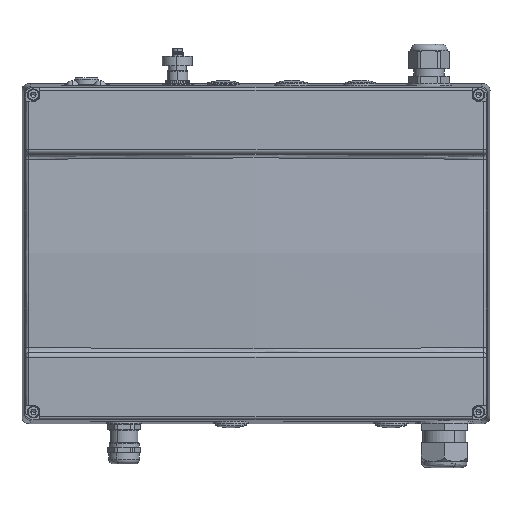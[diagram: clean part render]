
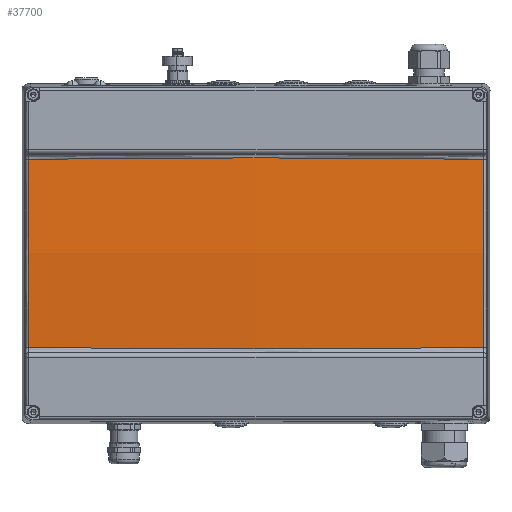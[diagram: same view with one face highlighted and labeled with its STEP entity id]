
A CAD part, top view. The second image highlights one B-rep face of the part: STEP entity #37700.
In plain terms, the highlighted toroidal (fillet/blend) face has major radius 3002.64 mm and minor radius 800 mm.
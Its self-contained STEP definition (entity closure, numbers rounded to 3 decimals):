
#37657=AXIS2_PLACEMENT_3D('Torus Axis2P3D',#37654,#37655,#37656) ;
#37533=CARTESIAN_POINT('Vertex',(-4.239,61.776,90.16)) ;
#37543=CARTESIAN_POINT('Vertex',(-302.761,61.776,90.16)) ;
#37547=CARTESIAN_POINT('Control Point',(-302.761,61.776,90.16)) ;
#37548=CARTESIAN_POINT('Control Point',(-301.742,61.779,90.2)) ;
#37549=CARTESIAN_POINT('Control Point',(-300.724,61.781,90.239)) ;
#37550=CARTESIAN_POINT('Control Point',(-299.706,61.784,90.279)) ;
#37551=CARTESIAN_POINT('Control Point',(-291.721,61.807,90.583)) ;
#37552=CARTESIAN_POINT('Control Point',(-283.736,61.847,90.864)) ;
#37553=CARTESIAN_POINT('Control Point',(-276.769,61.892,91.093)) ;
#37554=CARTESIAN_POINT('Control Point',(-261.351,62.007,91.564)) ;
#37555=CARTESIAN_POINT('Control Point',(-245.932,62.143,91.954)) ;
#37556=CARTESIAN_POINT('Control Point',(-237.481,62.219,92.144)) ;
#37557=CARTESIAN_POINT('Control Point',(-220.579,62.368,92.478)) ;
#37558=CARTESIAN_POINT('Control Point',(-203.676,62.496,92.719)) ;
#37559=CARTESIAN_POINT('Control Point',(-195.225,62.552,92.817)) ;
#37560=CARTESIAN_POINT('Control Point',(-178.323,62.64,92.968)) ;
#37561=CARTESIAN_POINT('Control Point',(-161.421,62.679,93.028)) ;
#37562=CARTESIAN_POINT('Control Point',(-152.97,62.684,93.036)) ;
#37563=CARTESIAN_POINT('Control Point',(-127.615,62.655,92.992)) ;
#37564=CARTESIAN_POINT('Control Point',(-102.26,62.508,92.746)) ;
#37565=CARTESIAN_POINT('Control Point',(-85.367,62.365,92.492)) ;
#37566=CARTESIAN_POINT('Control Point',(-60.014,62.125,91.972)) ;
#37567=CARTESIAN_POINT('Control Point',(-34.664,61.922,91.237)) ;
#37568=CARTESIAN_POINT('Control Point',(-26.214,61.863,90.968)) ;
#37569=CARTESIAN_POINT('Control Point',(-16.749,61.811,90.639)) ;
#37570=CARTESIAN_POINT('Control Point',(-7.285,61.784,90.278)) ;
#37571=CARTESIAN_POINT('Control Point',(-6.269,61.781,90.239)) ;
#37572=CARTESIAN_POINT('Control Point',(-5.254,61.779,90.2)) ;
#37573=CARTESIAN_POINT('Control Point',(-4.239,61.776,90.16)) ;
#37654=CARTESIAN_POINT('Axis2P3D Location',(-153.5,0.,-3707.164)) ;
#37660=CARTESIAN_POINT('Control Point',(-302.761,-61.776,90.16)) ;
#37661=CARTESIAN_POINT('Control Point',(-302.678,-30.95,92.553)) ;
#37662=CARTESIAN_POINT('Control Point',(-302.65,0.,93.354)) ;
#37663=CARTESIAN_POINT('Control Point',(-302.678,30.95,92.553)) ;
#37664=CARTESIAN_POINT('Control Point',(-302.761,61.776,90.16)) ;
#37665=CARTESIAN_POINT('Vertex',(-302.761,-61.776,90.16)) ;
#37669=CARTESIAN_POINT('Control Point',(-302.761,-61.776,90.16)) ;
#37670=CARTESIAN_POINT('Control Point',(-286.327,-61.81,90.803)) ;
#37671=CARTESIAN_POINT('Control Point',(-269.891,-61.925,91.352)) ;
#37672=CARTESIAN_POINT('Control Point',(-253.454,-62.074,91.808)) ;
#37673=CARTESIAN_POINT('Control Point',(-220.117,-62.387,92.552)) ;
#37674=CARTESIAN_POINT('Control Point',(-186.775,-62.619,92.937)) ;
#37675=CARTESIAN_POINT('Control Point',(-169.873,-62.689,93.042)) ;
#37676=CARTESIAN_POINT('Control Point',(-136.066,-62.705,93.074)) ;
#37677=CARTESIAN_POINT('Control Point',(-102.26,-62.508,92.746)) ;
#37678=CARTESIAN_POINT('Control Point',(-85.367,-62.365,92.492)) ;
#37679=CARTESIAN_POINT('Control Point',(-58.999,-62.116,91.951)) ;
#37680=CARTESIAN_POINT('Control Point',(-32.633,-61.906,91.178)) ;
#37681=CARTESIAN_POINT('Control Point',(-23.168,-61.842,90.87)) ;
#37682=CARTESIAN_POINT('Control Point',(-13.703,-61.796,90.531)) ;
#37683=CARTESIAN_POINT('Control Point',(-4.239,-61.776,90.16)) ;
#37684=CARTESIAN_POINT('Vertex',(-4.239,-61.776,90.16)) ;
#37688=CARTESIAN_POINT('Control Point',(-4.239,-61.776,90.16)) ;
#37689=CARTESIAN_POINT('Control Point',(-4.322,-30.95,92.553)) ;
#37690=CARTESIAN_POINT('Control Point',(-4.35,0.,93.354)) ;
#37691=CARTESIAN_POINT('Control Point',(-4.322,30.95,92.553)) ;
#37692=CARTESIAN_POINT('Control Point',(-4.239,61.776,90.16)) ;
#37655=DIRECTION('Axis2P3D Direction',(0.,1.,0.)) ;
#37656=DIRECTION('Axis2P3D XDirection',(-0.04,0.,0.999)) ;
#37695=ORIENTED_EDGE('',*,*,#37667,.T.) ;
#37696=ORIENTED_EDGE('',*,*,#37686,.F.) ;
#37697=ORIENTED_EDGE('',*,*,#37693,.T.) ;
#37698=ORIENTED_EDGE('',*,*,#37574,.T.) ;
#37700=ADVANCED_FACE('TOP COVER . MET - PLK BG-C.1\\TOP COVER . MET - PLK BG-C.1\\PartBody',(#37699),#37658,.T.) ;
#37546=B_SPLINE_CURVE_WITH_KNOTS('',5,(#37547,#37548,#37549,#37550,#37551,#37552,#37553,#37554,#37555,#37556,#37557,#37558,#37559,#37560,#37561,#37562,#37563,#37564,#37565,#37566,#37567,#37568,#37569,#37570,#37571,#37572,#37573),.UNSPECIFIED.,.F.,.U.,(6,3,3,3,3,3,3,3,6),(79.46,85.954,130.386,184.276,238.159,292.037,399.81,453.698,460.172),.UNSPECIFIED.) ;
#37659=B_SPLINE_CURVE_WITH_KNOTS('',4,(#37660,#37661,#37662,#37663,#37664),.UNSPECIFIED.,.F.,.U.,(5,5),(125.322,300.009),.UNSPECIFIED.) ;
#37668=B_SPLINE_CURVE_WITH_KNOTS('',5,(#37669,#37670,#37671,#37672,#37673,#37674,#37675,#37676,#37677,#37678,#37679,#37680,#37681,#37682,#37683),.UNSPECIFIED.,.F.,.U.,(6,3,3,3,6),(79.46,184.276,292.037,399.81,460.172),.UNSPECIFIED.) ;
#37687=B_SPLINE_CURVE_WITH_KNOTS('',4,(#37688,#37689,#37690,#37691,#37692),.UNSPECIFIED.,.F.,.U.,(5,5),(125.322,300.009),.UNSPECIFIED.) ;
#37658=TOROIDAL_SURFACE('homeo Torus',#37657,3002.645,800.) ;
#37574=EDGE_CURVE('',#37534,#37544,#37546,.F.) ;
#37667=EDGE_CURVE('',#37544,#37666,#37659,.F.) ;
#37686=EDGE_CURVE('',#37685,#37666,#37668,.F.) ;
#37693=EDGE_CURVE('',#37685,#37534,#37687,.T.) ;
#37694=EDGE_LOOP('',(#37695,#37696,#37697,#37698)) ;
#37699=FACE_OUTER_BOUND('',#37694,.T.) ;
#37534=VERTEX_POINT('',#37533) ;
#37544=VERTEX_POINT('',#37543) ;
#37666=VERTEX_POINT('',#37665) ;
#37685=VERTEX_POINT('',#37684) ;
